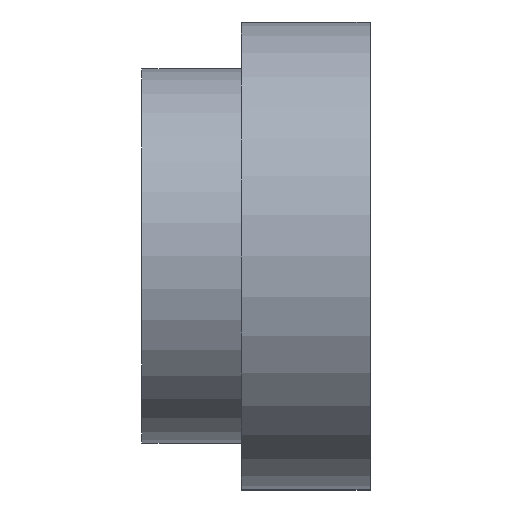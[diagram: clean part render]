
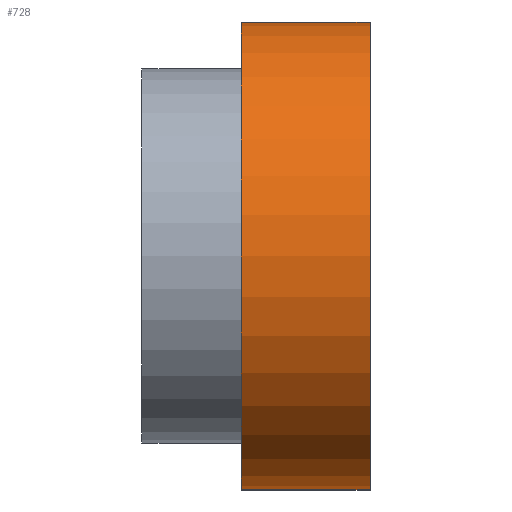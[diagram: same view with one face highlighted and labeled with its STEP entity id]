
A CAD part, left-side view. The second image highlights one B-rep face of the part: STEP entity #728.
In plain terms, the highlighted cylindrical face has radius 10 mm (diameter 20 mm), a partial arc.
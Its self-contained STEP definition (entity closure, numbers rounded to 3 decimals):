
#85=FACE_OUTER_BOUND('',#151,.T.);
#151=EDGE_LOOP('',(#551,#552,#553,#554));
#210=LINE('',#1192,#246);
#213=LINE('',#1198,#249);
#246=VECTOR('',#964,10.);
#249=VECTOR('',#969,10.);
#288=CIRCLE('',#792,10.);
#309=CIRCLE('',#815,10.);
#348=VERTEX_POINT('',#1144);
#349=VERTEX_POINT('',#1145);
#371=VERTEX_POINT('',#1191);
#373=VERTEX_POINT('',#1197);
#416=EDGE_CURVE('',#348,#349,#288,.T.);
#439=EDGE_CURVE('',#371,#348,#210,.T.);
#442=EDGE_CURVE('',#349,#373,#213,.T.);
#443=EDGE_CURVE('',#373,#371,#309,.T.);
#551=ORIENTED_EDGE('',*,*,#416,.T.);
#552=ORIENTED_EDGE('',*,*,#442,.T.);
#553=ORIENTED_EDGE('',*,*,#443,.T.);
#554=ORIENTED_EDGE('',*,*,#439,.T.);
#692=CYLINDRICAL_SURFACE('',#814,10.);
#728=ADVANCED_FACE('',(#85),#692,.T.);
#792=AXIS2_PLACEMENT_3D('',#1146,#918,#919);
#814=AXIS2_PLACEMENT_3D('',#1196,#967,#968);
#815=AXIS2_PLACEMENT_3D('',#1199,#970,#971);
#918=DIRECTION('center_axis',(0.,1.,0.));
#919=DIRECTION('ref_axis',(0.,0.,-1.));
#964=DIRECTION('',(0.,-1.,0.));
#967=DIRECTION('center_axis',(0.,1.,0.));
#968=DIRECTION('ref_axis',(0.,0.,-1.));
#969=DIRECTION('',(0.,1.,0.));
#970=DIRECTION('center_axis',(0.,-1.,0.));
#971=DIRECTION('ref_axis',(0.,0.,-1.));
#1144=CARTESIAN_POINT('',(-100.,-2.75,-10.));
#1145=CARTESIAN_POINT('',(-100.,-2.75,10.));
#1146=CARTESIAN_POINT('Origin',(-100.,-2.75,0.));
#1191=CARTESIAN_POINT('',(-100.,2.75,-10.));
#1192=CARTESIAN_POINT('',(-100.,0.,-10.));
#1196=CARTESIAN_POINT('Origin',(-100.,0.,0.));
#1197=CARTESIAN_POINT('',(-100.,2.75,10.));
#1198=CARTESIAN_POINT('',(-100.,0.,10.));
#1199=CARTESIAN_POINT('Origin',(-100.,2.75,0.));
